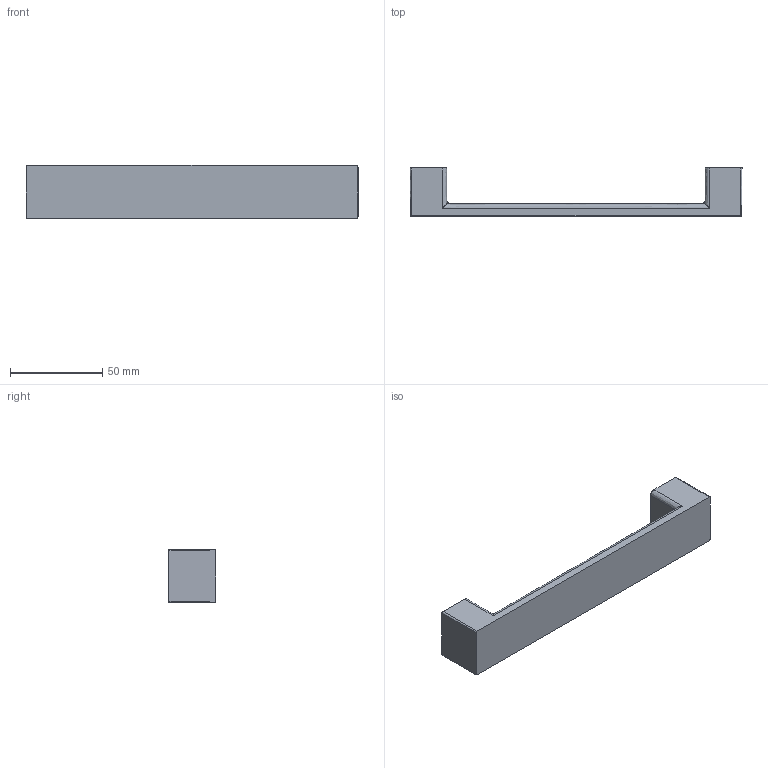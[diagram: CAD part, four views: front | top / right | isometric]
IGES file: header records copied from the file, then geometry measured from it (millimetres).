
Start section: Data from Parasolid IGES Translator 15.0.47, Copyright(c) 2006 Siemens P LM Software. All Rights Reserved.
Global section: file name: 9113403.igs; native system:  By UGS Corp.; preprocessor: XPlus GENERIC/IGES 3.0; author: Noname; organization: Noname; date: 20140122.170134; units: millimetre
Bounding box: 180 x 26 x 29 mm (x, y, z)
Surface area: 16753.6 mm2 (no closed solid volume)
Topology: 0 solids, 0 shells, 84 faces, 440 edges, 438 vertices
Faces by surface type: revolution 44, extrusion 40
